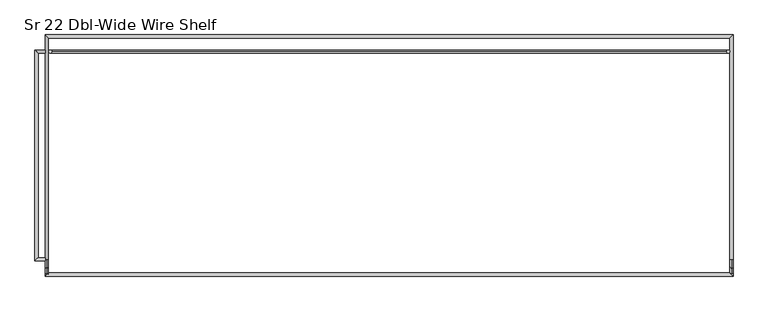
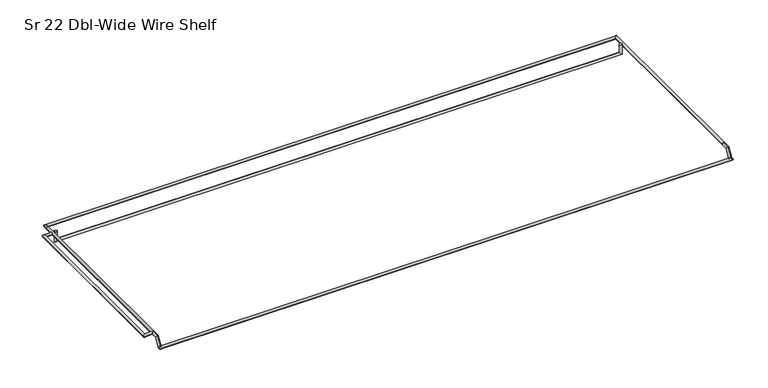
"""IFC4 building model written with IfcOpenShell, lengths in millimetres: furniture geometry, HermanMiller_Carts_CT521_CartShelf : Sr 22 Dbl-Wide Wire Shelf."""

from ifc_helpers import new_model, si_unit, frame, origin, place, context, project, spatial, circle_curve, ellipse_curve, source, transform, mapped, element, save
from ifc_brep_helpers import plane_surface, cylinder_surface, advanced_brep


def sr_22_dbl_wide_wire_shelf_813cd4cb(model_context):
    return source(origin(), model_context, "Body", "AdvancedBrep", [
        advanced_brep(
        [(733.4732983, 136.525, 1863.7377), (738.2357983, 136.525, 1863.7377), (733.4732983, 136.525, 1848.4596), (738.2357983, 136.525, 1843.6971), (-295.1886017, 136.525, 1848.4596), (-299.9511017, 136.525, 1843.6971), (-295.1886017, 136.525, 1863.7377), (-299.9511017, 136.525, 1863.7377)],
        [
            (0, 1, circle_curve(frame((735.8545483, 136.525, 1863.7377), z_axis=(0.0, 0.0, 1.0), x_axis=(1.0, 0.0, 0.0)), 2.38125)),
            (1, 0, circle_curve(frame((735.8545483, 136.525, 1863.7377), z_axis=(0.0, 0.0, 1.0), x_axis=(1.0, 0.0, 0.0)), 2.38125)),
            (0, 2),
            (2, 3, ellipse_curve(frame((735.8545483, 136.525, 1846.07835), z_axis=(0.7071067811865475, 0.0, 0.7071067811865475), x_axis=(-0.7071067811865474, 0.0, 0.7071067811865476)), 3.367596, 2.38125)),
            (3, 1),
            (3, 2, ellipse_curve(frame((735.8545483, 136.525, 1846.07835), z_axis=(0.7071067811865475, 0.0, 0.7071067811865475), x_axis=(-0.7071067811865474, 0.0, 0.7071067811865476)), 3.367596, 2.38125)),
            (2, 4),
            (4, 5, ellipse_curve(frame((-297.5698517, 136.525, 1846.07835), z_axis=(0.7071067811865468, 0.0, -0.7071067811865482), x_axis=(0.7071067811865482, 0.0, 0.7071067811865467)), 3.367596, 2.38125)),
            (5, 3),
            (5, 4, ellipse_curve(frame((-297.5698517, 136.525, 1846.07835), z_axis=(0.7071067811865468, 0.0, -0.7071067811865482), x_axis=(0.7071067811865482, 0.0, 0.7071067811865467)), 3.367596, 2.38125)),
            (6, 7, circle_curve(frame((-297.5698517, 136.525, 1863.7377), z_axis=(0.0, 0.0, 1.0), x_axis=(-1.0, 0.0, 0.0)), 2.38125)),
            (7, 6, circle_curve(frame((-297.5698517, 136.525, 1863.7377), z_axis=(0.0, 0.0, 1.0), x_axis=(-1.0, 0.0, 0.0)), 2.38125)),
            (4, 6),
            (7, 5),
        ],
        [
            plane_surface(frame((735.8545483, 136.525, 1863.7377), z_axis=(0.0, 0.0, 1.0), x_axis=(0.0, -1.0, 0.0))),
            cylinder_surface(frame((735.8545483, 136.525, 1863.7377), z_axis=(0.0, 0.0, 1.0), x_axis=(1.0, 0.0, 0.0)), 2.38125),
            cylinder_surface(frame((735.8545483, 136.525, 1846.07835), z_axis=(1.0, 0.0, 0.0), x_axis=(0.0, 0.0, -1.0)), 2.38125),
            plane_surface(frame((-297.5698517, 136.525, 1863.7377), z_axis=(0.0, 0.0, 1.0), x_axis=(0.0, -1.0, 0.0))),
            cylinder_surface(frame((-297.5698517, 136.525, 1846.07835), z_axis=(0.0, 0.0, -1.0), x_axis=(-1.0, 0.0, 0.0)), 2.38125),
        ],
        [
            (0, [[1, 2]]),
            (1, [[-1, 3, 4, 5]]),
            (1, [[-2, -5, 6, -3]]),
            (2, [[-4, 7, 8, 9]]),
            (2, [[-6, -9, 10, -7]]),
            (3, [[11, 12]]),
            (4, [[-8, 13, -12, 14]]),
            (4, [[-10, -14, -11, -13]]),
        ],
    ),
        advanced_brep(
        [(-305.0526917, -178.26736, 1861.3501), (-305.0526917, -183.04256, 1861.3501), (-305.0526917, 133.81736, 1861.3501), (-305.0526917, 138.59256, 1861.3501), (-316.1524917, -178.26736, 1861.3501), (-320.9276917, -183.04256, 1861.3501), (-316.1524917, 133.81736, 1861.3501), (-320.9276917, 138.59256, 1861.3501)],
        [
            (0, 1, circle_curve(frame((-305.0526917, -180.65496, 1861.3501), z_axis=(1.0, 0.0, 0.0), x_axis=(0.0, -1.0, 0.0)), 2.3876)),
            (1, 0, circle_curve(frame((-305.0526917, -180.65496, 1861.3501), z_axis=(1.0, 0.0, 0.0), x_axis=(0.0, -1.0, 0.0)), 2.3876)),
            (2, 3, circle_curve(frame((-305.0526917, 136.20496, 1861.3501), z_axis=(1.0, 0.0, 0.0), x_axis=(0.0, 1.0, 0.0)), 2.3876)),
            (3, 2, circle_curve(frame((-305.0526917, 136.20496, 1861.3501), z_axis=(1.0, 0.0, 0.0), x_axis=(0.0, 1.0, 0.0)), 2.3876)),
            (0, 4),
            (4, 5, ellipse_curve(frame((-318.5400917, -180.65496, 1861.3501), z_axis=(0.7071067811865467, -0.7071067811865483, 0.0), x_axis=(0.7071067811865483, 0.7071067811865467, 0.0)), 3.3765763, 2.3876)),
            (5, 1),
            (5, 4, ellipse_curve(frame((-318.5400917, -180.65496, 1861.3501), z_axis=(0.7071067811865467, -0.7071067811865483, 0.0), x_axis=(0.7071067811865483, 0.7071067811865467, 0.0)), 3.3765763, 2.3876)),
            (4, 6),
            (6, 7, ellipse_curve(frame((-318.5400917, 136.20496, 1861.3501), z_axis=(-0.7071067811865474, -0.7071067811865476, 0.0), x_axis=(0.7071067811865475, -0.7071067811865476, 0.0)), 3.3765763, 2.3876)),
            (7, 5),
            (7, 6, ellipse_curve(frame((-318.5400917, 136.20496, 1861.3501), z_axis=(-0.7071067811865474, -0.7071067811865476, 0.0), x_axis=(0.7071067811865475, -0.7071067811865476, 0.0)), 3.3765763, 2.3876)),
            (6, 2),
            (3, 7),
        ],
        [
            plane_surface(frame((-305.0526917, -180.65496, 1861.3501), z_axis=(1.0, 0.0, 0.0), x_axis=(0.0, 0.0, 1.0))),
            plane_surface(frame((-305.0526917, 136.20496, 1861.3501), z_axis=(1.0, 0.0, 0.0), x_axis=(0.0, 0.0, 1.0))),
            cylinder_surface(frame((-305.0526917, -180.65496, 1861.3501), z_axis=(1.0, 0.0, 0.0), x_axis=(0.0, -1.0, 0.0)), 2.3876),
            cylinder_surface(frame((-318.5400917, -180.65496, 1861.3501), z_axis=(0.0, -1.0, 0.0), x_axis=(-1.0, 0.0, 0.0)), 2.3876),
            cylinder_surface(frame((-318.5400917, 136.20496, 1861.3501), z_axis=(-1.0, 0.0, 0.0), x_axis=(0.0, 1.0, 0.0)), 2.3876),
        ],
        [
            (0, [[1, 2]]),
            (1, [[3, 4]]),
            (2, [[-1, 5, 6, 7]]),
            (2, [[-2, -7, 8, -5]]),
            (3, [[-6, 9, 10, 11]]),
            (3, [[-8, -11, 12, -9]]),
            (4, [[-10, 13, -4, 14]]),
            (4, [[-12, -14, -3, -13]]),
        ],
    ),
        advanced_brep(
        [(738.5621883, -201.5998, 1846.0847), (743.3373883, -201.5998, 1846.0847), (743.3373883, -206.375, 1846.0847), (-300.2774917, -201.5998, 1846.0847), (-305.0526917, -206.375, 1846.0847), (-305.0526917, -201.5998, 1846.0847)],
        [
            (0, 1, circle_curve(frame((740.9497883, -201.5998, 1846.0847), z_axis=(0.0, 1.0, 0.0), x_axis=(1.0, 0.0, 0.0)), 2.3876)),
            (1, 0, circle_curve(frame((740.9497883, -201.5998, 1846.0847), z_axis=(0.0, 1.0, 0.0), x_axis=(1.0, 0.0, 0.0)), 2.3876)),
            (0, 2, ellipse_curve(frame((740.9497883, -203.9874, 1846.0847), z_axis=(0.7071067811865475, 0.7071067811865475, 0.0), x_axis=(-0.7071067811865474, 0.7071067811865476, 0.0)), 3.3765763, 2.3876)),
            (2, 1),
            (2, 0, ellipse_curve(frame((740.9497883, -203.9874, 1846.0847), z_axis=(0.7071067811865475, 0.7071067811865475, 0.0), x_axis=(-0.7071067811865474, 0.7071067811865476, 0.0)), 3.3765763, 2.3876)),
            (0, 3),
            (3, 4, ellipse_curve(frame((-302.6650917, -203.9874, 1846.0847), z_axis=(0.7071067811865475, -0.7071067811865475, 0.0), x_axis=(0.7071067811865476, 0.7071067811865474, 0.0)), 3.3765763, 2.3876)),
            (4, 2),
            (4, 3, ellipse_curve(frame((-302.6650917, -203.9874, 1846.0847), z_axis=(0.7071067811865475, -0.7071067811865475, 0.0), x_axis=(0.7071067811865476, 0.7071067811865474, 0.0)), 3.3765763, 2.3876)),
            (3, 5, circle_curve(frame((-302.6650917, -201.5998, 1846.0847), z_axis=(0.0, 1.0, 0.0), x_axis=(-1.0, 0.0, 0.0)), 2.3876)),
            (5, 3, circle_curve(frame((-302.6650917, -201.5998, 1846.0847), z_axis=(0.0, 1.0, 0.0), x_axis=(-1.0, 0.0, 0.0)), 2.3876)),
            (5, 4),
        ],
        [
            plane_surface(frame((740.9497883, -201.5998, 1846.0847), z_axis=(0.0, 1.0, 0.0), x_axis=(0.0, 0.0, 1.0))),
            cylinder_surface(frame((740.9497883, -201.5998, 1846.0847), z_axis=(0.0, 1.0, 0.0), x_axis=(1.0, 0.0, 0.0)), 2.3876),
            cylinder_surface(frame((740.9497883, -203.9874, 1846.0847), z_axis=(1.0, 0.0, 0.0), x_axis=(0.0, -1.0, 0.0)), 2.3876),
            plane_surface(frame((-302.6650917, -201.5998, 1846.0847), z_axis=(0.0, 1.0, 0.0), x_axis=(0.0, 0.0, 1.0))),
            cylinder_surface(frame((-302.6650917, -203.9874, 1846.0847), z_axis=(0.0, -1.0, 0.0), x_axis=(-1.0, 0.0, 0.0)), 2.3876),
        ],
        [
            (0, [[1, 2]]),
            (1, [[-1, 3, 4]]),
            (1, [[-2, -4, 5]]),
            (2, [[-3, 6, 7, 8]]),
            (2, [[-5, -8, 9, -6]]),
            (3, [[10, 11]]),
            (4, [[-7, -11, 12]]),
            (4, [[-9, -12, -10]]),
        ],
    ),
        advanced_brep(
        [(743.3373883, -180.65496, 1861.3501), (738.5621883, -180.65496, 1861.3501), (743.3373883, 161.925, 1861.3501), (738.5621883, 157.1498, 1861.3501), (-305.0526917, 161.925, 1861.3501), (-300.2774917, 157.1498, 1861.3501), (-305.0526917, -180.65496, 1861.3501), (-300.2774917, -180.65496, 1861.3501)],
        [
            (0, 1, circle_curve(frame((740.9497883, -180.65496, 1861.3501), z_axis=(0.0, -1.0, 0.0), x_axis=(-1.0, 0.0, 0.0)), 2.3876)),
            (1, 0, circle_curve(frame((740.9497883, -180.65496, 1861.3501), z_axis=(0.0, -1.0, 0.0), x_axis=(-1.0, 0.0, 0.0)), 2.3876)),
            (0, 2),
            (2, 3, ellipse_curve(frame((740.9497883, 159.5374, 1861.3501), z_axis=(0.7071067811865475, -0.7071067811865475, 0.0), x_axis=(-0.7071067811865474, -0.7071067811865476, 0.0)), 3.3765763, 2.3876)),
            (3, 1),
            (3, 2, ellipse_curve(frame((740.9497883, 159.5374, 1861.3501), z_axis=(0.7071067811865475, -0.7071067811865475, 0.0), x_axis=(-0.7071067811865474, -0.7071067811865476, 0.0)), 3.3765763, 2.3876)),
            (2, 4),
            (4, 5, ellipse_curve(frame((-302.6650917, 159.5374, 1861.3501), z_axis=(0.7071067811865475, 0.7071067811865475, 0.0), x_axis=(0.7071067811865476, -0.7071067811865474, 0.0)), 3.3765763, 2.3876)),
            (5, 3),
            (5, 4, ellipse_curve(frame((-302.6650917, 159.5374, 1861.3501), z_axis=(0.7071067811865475, 0.7071067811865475, 0.0), x_axis=(0.7071067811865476, -0.7071067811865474, 0.0)), 3.3765763, 2.3876)),
            (6, 7, circle_curve(frame((-302.6650917, -180.65496, 1861.3501), z_axis=(0.0, -1.0, 0.0), x_axis=(1.0, 0.0, 0.0)), 2.3876)),
            (7, 6, circle_curve(frame((-302.6650917, -180.65496, 1861.3501), z_axis=(0.0, -1.0, 0.0), x_axis=(1.0, 0.0, 0.0)), 2.3876)),
            (4, 6),
            (7, 5),
        ],
        [
            plane_surface(frame((740.9497883, -180.65496, 1861.3501), z_axis=(0.0, -1.0, 0.0), x_axis=(0.0, 0.0, 1.0))),
            cylinder_surface(frame((740.9497883, -180.65496, 1861.3501), z_axis=(0.0, -1.0, 0.0), x_axis=(-1.0, 0.0, 0.0)), 2.3876),
            cylinder_surface(frame((740.9497883, 159.5374, 1861.3501), z_axis=(1.0, 0.0, 0.0), x_axis=(0.0, -1.0, 0.0)), 2.3876),
            plane_surface(frame((-302.6650917, -180.65496, 1861.3501), z_axis=(0.0, -1.0, 0.0), x_axis=(0.0, 0.0, 1.0))),
            cylinder_surface(frame((-302.6650917, 159.5374, 1861.3501), z_axis=(0.0, 1.0, 0.0), x_axis=(1.0, 0.0, 0.0)), 2.3876),
        ],
        [
            (0, [[1, 2]]),
            (1, [[-1, 3, 4, 5]]),
            (1, [[-2, -5, 6, -3]]),
            (2, [[-4, 7, 8, 9]]),
            (2, [[-6, -9, 10, -7]]),
            (3, [[11, 12]]),
            (4, [[-8, 13, -12, 14]]),
            (4, [[-10, -14, -11, -13]]),
        ],
    ),
        advanced_brep(
        [(740.9497883, -180.65496, 1863.7377), (740.9497883, -180.65496, 1858.9625), (740.9497883, -191.442659, 1858.9625), (740.9497883, -194.205541, 1863.7377), (740.9497883, -200.218359, 1843.6971), (740.9497883, -202.981241, 1848.4723), (740.9497883, -203.9874, 1848.4723), (740.9497883, -203.9874, 1843.6971)],
        [
            (0, 1, circle_curve(frame((740.9497883, -180.65496, 1861.3501), z_axis=(0.0, 1.0, 0.0), x_axis=(0.0, 0.0, -1.0)), 2.3876)),
            (1, 0, circle_curve(frame((740.9497883, -180.65496, 1861.3501), z_axis=(0.0, 1.0, 0.0), x_axis=(0.0, 0.0, -1.0)), 2.3876)),
            (1, 2),
            (2, 3, ellipse_curve(frame((740.9497883, -192.8241, 1861.3501), z_axis=(0.0, 0.8655604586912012, 0.5008044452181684), x_axis=(0.0, 0.500804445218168, -0.8655604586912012)), 2.7584439, 2.3876)),
            (3, 0),
            (3, 2, ellipse_curve(frame((740.9497883, -192.8241, 1861.3501), z_axis=(0.0, 0.8655604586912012, 0.5008044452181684), x_axis=(0.0, 0.500804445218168, -0.8655604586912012)), 2.7584439, 2.3876)),
            (2, 4),
            (4, 5, ellipse_curve(frame((740.9497883, -201.5998, 1846.0847), z_axis=(0.0, 0.8655604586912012, 0.5008044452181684), x_axis=(0.0, -0.5008044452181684, 0.8655604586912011)), 2.7584439, 2.3876)),
            (5, 3),
            (5, 4, ellipse_curve(frame((740.9497883, -201.5998, 1846.0847), z_axis=(0.0, 0.8655604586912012, 0.5008044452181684), x_axis=(0.0, -0.5008044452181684, 0.8655604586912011)), 2.7584439, 2.3876)),
            (6, 7, circle_curve(frame((740.9497883, -203.9874, 1846.0847), z_axis=(0.0, -1.0, 0.0), x_axis=(0.0, 0.0, -1.0)), 2.3876)),
            (7, 6, circle_curve(frame((740.9497883, -203.9874, 1846.0847), z_axis=(0.0, -1.0, 0.0), x_axis=(0.0, 0.0, -1.0)), 2.3876)),
            (4, 7),
            (6, 5),
        ],
        [
            plane_surface(frame((740.9497883, -180.65496, 1861.3501), z_axis=(0.0, 1.0, 0.0), x_axis=(1.0, 0.0, 0.0))),
            cylinder_surface(frame((740.9497883, -180.65496, 1861.3501), z_axis=(0.0, 1.0, 0.0), x_axis=(0.0, 0.0, -1.0)), 2.3876),
            cylinder_surface(frame((740.9497883, -192.8241, 1861.3501), z_axis=(0.0, 0.49838981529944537, 0.8669530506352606), x_axis=(0.0, 0.8669530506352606, -0.49838981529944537)), 2.3876),
            plane_surface(frame((740.9497883, -203.9874, 1846.0847), z_axis=(0.0, -1.0, 0.0), x_axis=(1.0, 0.0, 0.0))),
            cylinder_surface(frame((740.9497883, -201.5998, 1846.0847), z_axis=(0.0, 1.0, 0.0), x_axis=(0.0, 0.0, -1.0)), 2.3876),
        ],
        [
            (0, [[1, 2]]),
            (1, [[-2, 3, 4, 5]]),
            (1, [[-1, -5, 6, -3]]),
            (2, [[-4, 7, 8, 9]]),
            (2, [[-6, -9, 10, -7]]),
            (3, [[11, 12]]),
            (4, [[-8, 13, -11, 14]]),
            (4, [[-10, -14, -12, -13]]),
        ],
    ),
        advanced_brep(
        [(-302.6650917, -180.65496, 1858.9625), (-302.6650917, -180.65496, 1863.7377), (-302.6650917, -191.442659, 1858.9625), (-302.6650917, -194.205541, 1863.7377), (-302.6650917, -200.218359, 1843.6971), (-302.6650917, -202.981241, 1848.4723), (-302.6650917, -203.9874, 1843.6971), (-302.6650917, -203.9874, 1848.4723)],
        [
            (0, 1, circle_curve(frame((-302.6650917, -180.65496, 1861.3501), z_axis=(0.0, 1.0, 0.0), x_axis=(0.0, 0.0, 1.0)), 2.3876)),
            (1, 0, circle_curve(frame((-302.6650917, -180.65496, 1861.3501), z_axis=(0.0, 1.0, 0.0), x_axis=(0.0, 0.0, 1.0)), 2.3876)),
            (0, 2),
            (2, 3, ellipse_curve(frame((-302.6650917, -192.8241, 1861.3501), z_axis=(0.0, 0.8655604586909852, 0.5008044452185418), x_axis=(0.0, 0.5008044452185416, -0.8655604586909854)), 2.7584439, 2.3876)),
            (3, 1),
            (3, 2, ellipse_curve(frame((-302.6650917, -192.8241, 1861.3501), z_axis=(0.0, 0.8655604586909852, 0.5008044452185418), x_axis=(0.0, 0.5008044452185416, -0.8655604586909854)), 2.7584439, 2.3876)),
            (2, 4),
            (4, 5, ellipse_curve(frame((-302.6650917, -201.5998, 1846.0847), z_axis=(0.0, 0.8655604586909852, 0.5008044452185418), x_axis=(0.0, -0.5008044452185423, 0.8655604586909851)), 2.7584439, 2.3876)),
            (5, 3),
            (5, 4, ellipse_curve(frame((-302.6650917, -201.5998, 1846.0847), z_axis=(0.0, 0.8655604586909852, 0.5008044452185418), x_axis=(0.0, -0.5008044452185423, 0.8655604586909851)), 2.7584439, 2.3876)),
            (6, 7, circle_curve(frame((-302.6650917, -203.9874, 1846.0847), z_axis=(0.0, -1.0, 0.0), x_axis=(0.0, 0.0, 1.0)), 2.3876)),
            (7, 6, circle_curve(frame((-302.6650917, -203.9874, 1846.0847), z_axis=(0.0, -1.0, 0.0), x_axis=(0.0, 0.0, 1.0)), 2.3876)),
            (4, 6),
            (7, 5),
        ],
        [
            plane_surface(frame((-302.6650917, -180.65496, 1861.3501), z_axis=(0.0, 1.0, 0.0), x_axis=(-1.0, 0.0, 0.0))),
            cylinder_surface(frame((-302.6650917, -180.65496, 1861.3501), z_axis=(0.0, 1.0, 0.0), x_axis=(0.0, 0.0, 1.0)), 2.3876),
            cylinder_surface(frame((-302.6650917, -192.8241, 1861.3501), z_axis=(0.0, 0.4983898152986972, 0.8669530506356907), x_axis=(0.0, -0.8669530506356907, 0.4983898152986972)), 2.3876),
            plane_surface(frame((-302.6650917, -203.9874, 1846.0847), z_axis=(0.0, -1.0, 0.0), x_axis=(-1.0, 0.0, 0.0))),
            cylinder_surface(frame((-302.6650917, -201.5998, 1846.0847), z_axis=(0.0, 1.0, 0.0), x_axis=(0.0, 0.0, 1.0)), 2.3876),
        ],
        [
            (0, [[1, 2]]),
            (1, [[-1, 3, 4, 5]]),
            (1, [[-2, -5, 6, -3]]),
            (2, [[-4, 7, 8, 9]]),
            (2, [[-6, -9, 10, -7]]),
            (3, [[11, 12]]),
            (4, [[-8, 13, -12, 14]]),
            (4, [[-10, -14, -11, -13]]),
        ],
    ),
    ])


if __name__ == "__main__":
    model = new_model("IFC4")
    model_context = context("Model", 3, world=origin())
    ifc_project = project(units=[si_unit("LENGTHUNIT", "METRE", prefix="MILLI")], contexts=[model_context])
    site = spatial("IfcSite", under=ifc_project)
    building = spatial("IfcBuilding", under=site)
    placement = place(None, origin())
    sr_22_dbl_wide_wire_shelf_shape = sr_22_dbl_wide_wire_shelf_813cd4cb(model_context)
    element("IfcFurniture", 1, ObjectType="HermanMiller_Carts_CT521_CartShelf : Sr 22 Dbl-Wide Wire Shelf", at=placement, inside=building, context=model_context, shape_type="MappedRepresentation", body=[
        mapped(sr_22_dbl_wide_wire_shelf_shape, transform((0.0, 0.0, 0.0), x_axis=(1.0, 0.0, 0.0), y_axis=(0.0, 1.0, 0.0), z_axis=(0.0, 0.0, 1.0))),
    ])
    save(model, "model.ifc")
